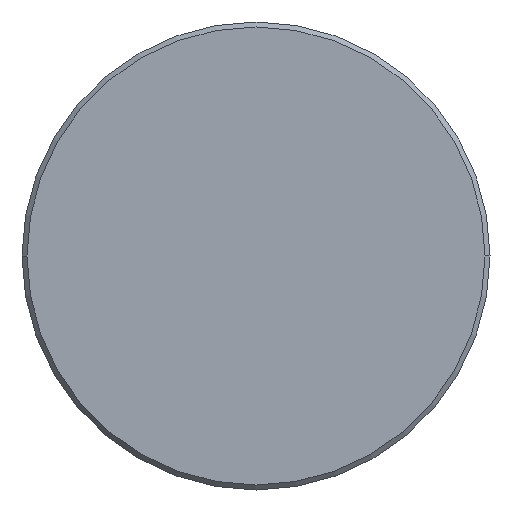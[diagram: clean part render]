
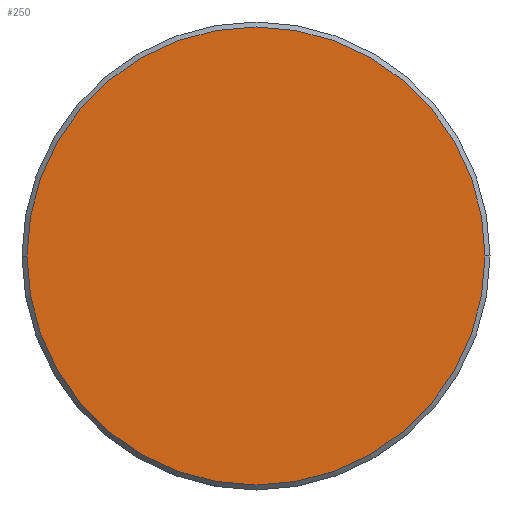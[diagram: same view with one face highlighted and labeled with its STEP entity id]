
A CAD part, left-side view. The second image highlights one B-rep face of the part: STEP entity #250.
In plain terms, the highlighted planar face has unit normal (-1, 0, 0).
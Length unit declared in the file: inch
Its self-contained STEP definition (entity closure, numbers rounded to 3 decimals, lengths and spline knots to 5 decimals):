
#6 = DIRECTION ( 'NONE',  ( -1., 0., 0. ) ) ;
#14 = DIRECTION ( 'NONE',  ( 0., -1., 0. ) ) ;
#48 = AXIS2_PLACEMENT_3D ( 'NONE', #245, #338, #14 ) ;
#52 = VERTEX_POINT ( 'NONE', #221 ) ;
#90 = EDGE_LOOP ( 'NONE', ( #290, #128 ) ) ;
#91 = AXIS2_PLACEMENT_3D ( 'NONE', #152, #100, #237 ) ;
#100 = DIRECTION ( 'NONE',  ( -1., 0., 0. ) ) ;
#115 = DIRECTION ( 'NONE',  ( 0., -1., 0. ) ) ;
#123 = CARTESIAN_POINT ( 'NONE',  ( 0., -0.1835, 0. ) ) ;
#127 = CIRCLE ( 'NONE', #236, 0.1835 ) ;
#128 = ORIENTED_EDGE ( 'NONE', *, *, #311, .T. ) ;
#152 = CARTESIAN_POINT ( 'NONE',  ( 0., 0., 0. ) ) ;
#172 = CARTESIAN_POINT ( 'NONE',  ( 0., 0., 0. ) ) ;
#221 = CARTESIAN_POINT ( 'NONE',  ( 0., 0.1835, 0. ) ) ;
#236 = AXIS2_PLACEMENT_3D ( 'NONE', #172, #6, #115 ) ;
#237 = DIRECTION ( 'NONE',  ( 0., -1., 0. ) ) ;
#245 = CARTESIAN_POINT ( 'NONE',  ( 0., 0., 0. ) ) ;
#249 = FACE_OUTER_BOUND ( 'NONE', #90, .T. ) ;
#250 = ADVANCED_FACE ( 'NONE', ( #249 ), #331, .T. ) ;
#290 = ORIENTED_EDGE ( 'NONE', *, *, #365, .T. ) ;
#311 = EDGE_CURVE ( 'NONE', #352, #52, #127, .T. ) ;
#329 = CIRCLE ( 'NONE', #91, 0.1835 ) ;
#331 = PLANE ( 'NONE',  #48 ) ;
#338 = DIRECTION ( 'NONE',  ( -1., 0., 0. ) ) ;
#352 = VERTEX_POINT ( 'NONE', #123 ) ;
#365 = EDGE_CURVE ( 'NONE', #52, #352, #329, .T. ) ;
